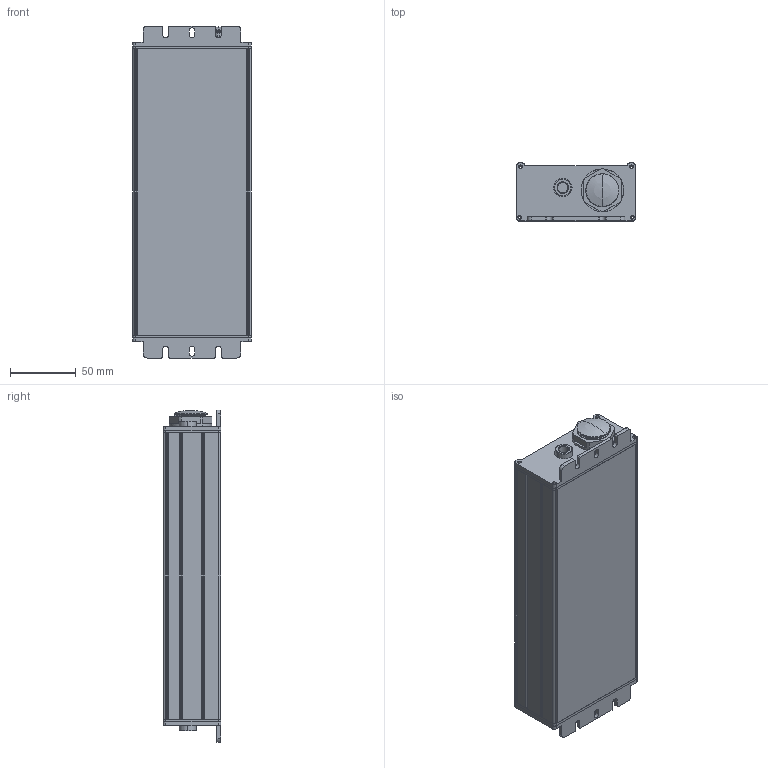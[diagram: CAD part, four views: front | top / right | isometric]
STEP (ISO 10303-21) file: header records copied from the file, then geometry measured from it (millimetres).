
FILE_DESCRIPTION((''),'2;1');
FILE_NAME('320W_ASM','2017-03-16T',('ERIC.YP.CHEN'),(''),'PRO/ENGINEER BY PARAMETRIC TECHNOLOGY CORPORATION, 2010280','PRO/ENGINEER BY PARAMETRIC TECHNOLOGY CORPORATION, 2010280','');
FILE_SCHEMA(('AUTOMOTIVE_DESIGN { 1 2 10303 214 0 1 1 1 }'));
Products named in the file (11): CHASSIS; BREAKET; RUBBER; VR_PLASTIC; VR_PWB; RUBBER_IN; BREAKET_IN; NUT_M24; VR_RUBBER; INSULATOR; 320W_ASM
Assembly tree (10 placements, depth 2):
  320W_ASM
    CHASSIS
    BREAKET
    RUBBER
    VR_PLASTIC
    VR_PWB
    RUBBER_IN
    BREAKET_IN
    NUT_M24
    VR_RUBBER
    INSULATOR
Bounding box: 90 x 43.8 x 252 mm (x, y, z)
Volume: 226673.3 mm3; surface area: 270969.7 mm2
Topology: 10 solids, 10 shells, 804 faces, 2163 edges, 1392 vertices
Faces by surface type: plane 318, cylinder 276, bspline 127, cone 49, torus 28, sphere 6
Entity records: 49060 total; most frequent: CARTESIAN_POINT 24000, ORIENTED_EDGE 4322, DIRECTION 3853, EDGE_CURVE 2161, PRESENTATION_STYLE_ASSIGNMENT 1592, STYLED_ITEM 1592, CURVE_STYLE 1585, VERTEX_POINT 1392
